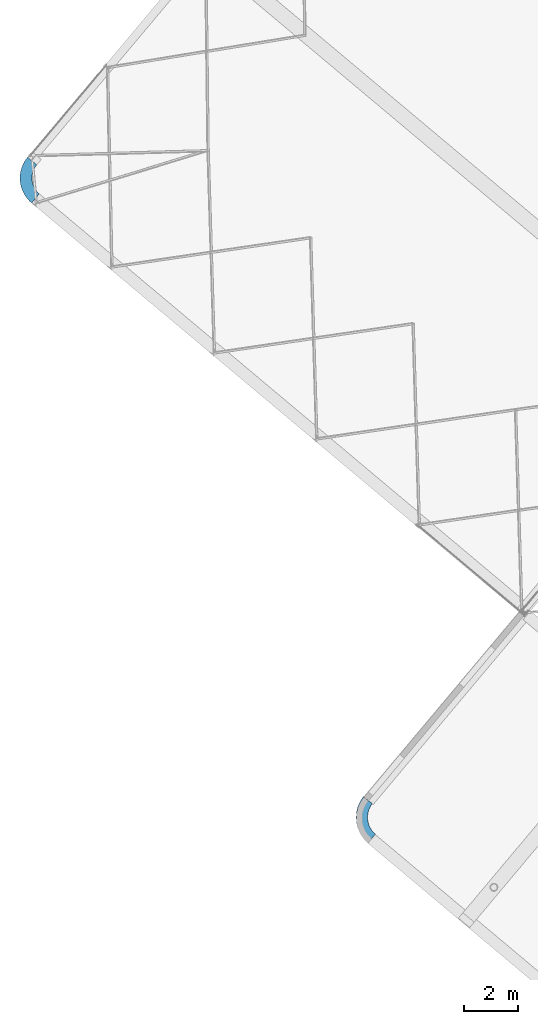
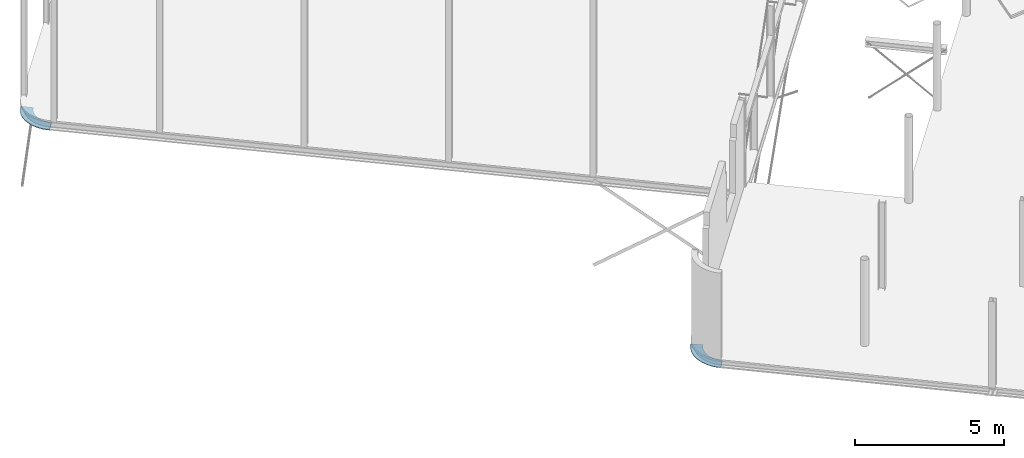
# One storey, part 23 of 25: 2 beams.
"""IFC2X3 building model written with IfcOpenShell, lengths in millimetres."""

from ifc_helpers import new_model, entity, si_unit, converted_unit, derived_unit, direction, frame, origin, place, context, subcontext, project, spatial, faceted_brep, material, type_object, element, save


model = new_model("IFC2X3")

# Units and contexts
model_context = context("Model", 3, precision=0.01, world=origin(), true_north=direction((6.123031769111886e-17, 1.0)))
body_context = subcontext(model_context, "Body", "Model", "MODEL_VIEW")
ifc_project = project(units=[si_unit("LENGTHUNIT", "METRE", prefix="MILLI"), si_unit("AREAUNIT", "SQUARE_METRE"), si_unit("VOLUMEUNIT", "CUBIC_METRE"), derived_unit("MASSDENSITYUNIT", [(si_unit("MASSUNIT", "GRAM", prefix="KILO"), 1), (si_unit("LENGTHUNIT", "METRE"), -3)]), si_unit("MASSUNIT", "GRAM", prefix="KILO"), converted_unit("PLANEANGLEUNIT", "DEGREE", entity("IfcPlaneAngleMeasure", 0.017453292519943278), si_unit("PLANEANGLEUNIT", "RADIAN"), dimensions=[0, 0, 0, 0, 0, 0, 0])], contexts=[model_context])

# Site, building, storey
site_placement = place(None, origin())
site = spatial("IfcSite", under=ifc_project, at=site_placement, Name="Default", CompositionType="ELEMENT")
building_placement = place(site_placement, origin())
building = spatial("IfcBuilding", under=site, at=building_placement, Name="AT constructie", CompositionType="ELEMENT")
storey_placement = place(building_placement, frame((0.0, 0.0, 3864.0)))
storey = spatial("IfcBuildingStorey", under=building, at=storey_placement, Name="01 eerste verdieping", CompositionType="ELEMENT", Elevation=3864.0)

# Beams
ifc_material = material(Name="h2_staal_S355")
beam_type_1 = type_object("IfcBeamType", Name="balk strip liggend_gen_420x15", PredefinedType="NOTDEFINED")
beam_1_placement = place(storey_placement, frame((18971.51274102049, 11769.841234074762, -385.0)))
element("IfcBeam", 1, at=beam_1_placement, inside=storey, type_object=beam_type_1, material=ifc_material, Name="NLRS_28_SF_LIB_balk strip_gen_AT:balk strip liggend_gen_420x15", ObjectType="NLRS_28_SF_LIB_balk strip_gen_AT:balk strip liggend_gen_420x15", context=body_context, shape_type="Brep", body=[
    faceted_brep([(433.1278015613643, 1.5952722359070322, 15.0), (433.1278015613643, 1.5952722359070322, 0.0), (707.1070136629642, 319.9274750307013, 0.0), (707.1070136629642, 319.9274750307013, 15.0), (596.5763581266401, 1449.1021868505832, 0.0), (266.06848992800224, 1708.2634282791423, 0.0), (266.06848992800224, 1708.2634282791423, 15.0), (596.5763581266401, 1449.1021868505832, 15.0), (541.7054105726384, 1369.977054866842, 0.0), (541.7054105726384, 1369.977054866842, 15.0), (496.473128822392, 1284.9732426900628, 15.0), (496.473128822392, 1284.9732426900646, 0.0), (437.2708542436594, 1102.0687388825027, 15.0), (424.11475321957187, 1006.6825532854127, 15.0), (424.11475321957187, 1006.6825532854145, 0.0), (437.2708542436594, 1102.0687388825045, 0.0), (461.5013501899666, 1195.2593524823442, 0.0), (461.5013501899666, 1195.2593524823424, 15.0), (422.21391251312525, 910.4121310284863, 0.0), (422.21391251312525, 910.4121310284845, 15.0), (431.5944642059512, 814.5809636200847, 15.0), (431.5944642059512, 814.5809636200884, 0.0), (452.1274478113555, 720.5065038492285, 0.0), (452.1274478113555, 720.5065038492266, 15.0), (483.53058317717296, 629.4820539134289, 15.0), (483.53058317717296, 629.4820539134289, 0.0), (577.0769288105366, 461.52953667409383, 15.0), (637.9340972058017, 386.9104208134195, 15.0), (637.9340972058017, 386.9104208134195, 0.0), (577.0769288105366, 461.52953667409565, 0.0), (525.3721511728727, 542.758985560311, 0.0), (525.3721511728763, 542.7589855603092, 15.0), (231.83774507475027, 1660.0432413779, 15.0), (197.60700022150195, 1611.8230544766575, 15.0), (168.12106614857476, 1560.5638113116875, 15.0), (138.63513207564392, 1509.3045681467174, 15.0), (114.16171547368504, 1455.471658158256, 15.0), (89.68829887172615, 1401.6387481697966, 15.0), (70.44959712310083, 1345.720927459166, 15.0), (51.21089537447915, 1289.8031067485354, 15.0), (37.38157919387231, 1232.3080605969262, 15.0), (23.552263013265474, 1174.813014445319, 15.0), (15.25789058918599, 1116.2627479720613, 15.0), (6.963518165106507, 1057.7124814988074, 15.0), (4.279395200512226, 998.6385803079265, 15.0), (1.595272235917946, 939.5646791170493, 15.0), (4.5457682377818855, 880.5034829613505, 15.0), (7.496264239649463, 821.4422868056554, 15.0), (16.054591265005, 762.9300200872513, 15.0), (24.61291829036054, 704.4177533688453, 15.0), (38.70137415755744, 646.9856566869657, 15.0), (52.78983002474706, 589.5535600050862, 15.0), (72.28050378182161, 533.723066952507, 15.0), (91.77117753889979, 477.8925738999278, 15.0), (116.48711078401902, 424.17057689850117, 15.0), (141.2030440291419, 370.4485798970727, 15.0), (170.91983753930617, 319.3228280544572, 15.0), (200.63663104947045, 268.19707621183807, 15.0), (235.08448213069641, 220.13174698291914, 15.0), (269.5323332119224, 172.0664177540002, 15.0), (308.39848527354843, 127.49790261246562, 15.0), (347.2646373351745, 82.92938747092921, 15.0), (377.3306372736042, 54.44928746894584, 15.0), (138.63513207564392, 1509.304568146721, 0.0), (114.16171547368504, 1455.4716581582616, 0.0), (89.68829887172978, 1401.6387481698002, 0.0), (7.496264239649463, 821.4422868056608, 0.0), (16.054591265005, 762.9300200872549, 0.0), (24.61291829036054, 704.4177533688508, 0.0), (197.6070002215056, 1611.823054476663, 0.0), (168.12106614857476, 1560.563811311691, 0.0), (51.21089537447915, 1289.803106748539, 0.0), (70.44959712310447, 1345.7209274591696, 0.0), (1.595272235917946, 939.564679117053, 0.0), (6.963518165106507, 1057.712481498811, 0.0), (4.279395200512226, 998.6385803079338, 0.0), (141.20304402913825, 370.44857989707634, 0.0), (170.91983753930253, 319.3228280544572, 0.0), (200.6366310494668, 268.1970762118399, 0.0), (23.552263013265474, 1174.8130144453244, 0.0), (15.25789058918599, 1116.2627479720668, 0.0), (347.26463733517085, 82.92938747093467, 0.0), (390.1962194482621, 42.26232985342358, 0.0), (37.38157919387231, 1232.3080605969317, 0.0), (4.5457682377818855, 880.503482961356, 0.0), (231.83774507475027, 1660.0432413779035, 0.0), (91.77117753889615, 477.89257389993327, 0.0), (52.78983002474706, 589.5535600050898, 0.0), (72.28050378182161, 533.7230669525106, 0.0), (269.53233321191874, 172.06641775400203, 0.0), (308.39848527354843, 127.49790261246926, 0.0), (38.7013741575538, 646.9856566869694, 0.0), (235.08448213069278, 220.13174698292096, 0.0), (116.48711078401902, 424.1705768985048, 0.0)], [[[0, 1, 2, 3]], [[4, 5, 6, 7]], [[8, 4, 7, 9]], [[8, 9, 10, 11]], [[12, 13, 14, 15]], [[15, 16, 17, 12]], [[16, 11, 10, 17]], [[18, 14, 13, 19]], [[19, 20, 21, 18]], [[22, 21, 20, 23]], [[22, 23, 24, 25]], [[26, 27, 28, 29]], [[29, 30, 31, 26]], [[30, 25, 24, 31]], [[2, 28, 27, 3]], [[20, 19, 13, 12, 17, 10, 9, 7, 6, 32, 33, 34, 35, 36, 37, 38, 39, 40, 41, 42, 43, 44, 45, 46, 47, 48, 49, 50, 51, 52, 53, 54, 55, 56, 57, 58, 59, 60, 61, 62, 0, 3, 27, 26, 31, 24, 23]], [[35, 63, 64, 65, 37, 36]], [[47, 66, 67, 68, 49, 48]], [[63, 35, 34, 33, 69, 70]], [[71, 39, 38, 37, 65, 72]], [[73, 45, 44, 43, 74, 75]], [[55, 76, 77, 78, 57, 56]], [[74, 43, 42, 41, 79, 80]], [[62, 61, 81, 82, 1, 0]], [[79, 41, 40, 39, 71, 83]], [[66, 47, 46, 45, 73, 84]], [[69, 33, 32, 6, 5, 85]], [[86, 53, 52, 51, 87, 88]], [[59, 89, 90, 81, 61, 60]], [[87, 51, 50, 49, 68, 91]], [[57, 78, 92, 89, 59, 58]], [[76, 55, 54, 53, 86, 93]], [[21, 22, 25, 30, 29, 28, 2, 1, 82, 81, 90, 89, 92, 78, 77, 76, 93, 86, 88, 87, 91, 68, 67, 66, 84, 73, 75, 74, 80, 79, 83, 71, 72, 65, 64, 63, 70, 69, 85, 5, 4, 8, 11, 16, 15, 14, 18]]]),
])
beam_type_2 = type_object("IfcBeamType", Name="balk strip liggend_gen_440x20", PredefinedType="NOTDEFINED")
beam_2_placement = place(storey_placement, frame((6581.143652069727, 35352.541456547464, -611.0)))
element("IfcBeam", 2, at=beam_2_placement, inside=storey, type_object=beam_type_2, material=ifc_material, Name="NLRS_28_SF_LIB_balk strip_gen_AT:balk strip liggend_gen_440x20", ObjectType="NLRS_28_SF_LIB_balk strip_gen_AT:balk strip liggend_gen_440x20", context=body_context, shape_type="Brep", body=[
    faceted_brep([(430.17874661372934, 1.5952722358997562, 20.0), (430.17874661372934, 1.5952722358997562, 0.0), (713.0052948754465, 338.6548272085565, 0.0), (713.0052948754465, 338.6548272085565, 20.0), (619.3301014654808, 1409.3671873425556, 0.0), (282.27054649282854, 1692.193735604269, 0.0), (282.27054649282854, 1692.193735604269, 20.0), (619.3301014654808, 1409.3671873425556, 20.0), (564.6905413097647, 1335.6296317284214, 0.0), (564.6905413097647, 1335.6296317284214, 20.0), (519.3374452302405, 1255.8436347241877, 20.0), (519.3374452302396, 1255.8436347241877, 0.0), (458.99098483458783, 1082.8513885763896, 20.0), (444.87760779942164, 992.1677559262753, 20.0), (444.87760779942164, 992.1677559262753, 0.0), (458.9909848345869, 1082.8513885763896, 0.0), (483.9321634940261, 1171.1726558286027, 0.0), (483.9321634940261, 1171.1726558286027, 20.0), (441.7978372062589, 900.4441294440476, 0.0), (441.7978372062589, 900.4441294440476, 20.0), (449.7965830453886, 809.0180461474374, 20.0), (449.7965830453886, 809.0180461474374, 0.0), (468.75720559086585, 719.2227042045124, 0.0), (468.75720559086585, 719.2227042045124, 20.0), (498.4032162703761, 632.3675219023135, 20.0), (498.403216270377, 632.3675219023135, 0.0), (587.872666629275, 472.4824695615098, 20.0), (646.3914402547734, 401.7840836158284, 20.0), (646.3914402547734, 401.7840836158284, 0.0), (587.872666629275, 472.4824695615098, 0.0), (538.3023094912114, 549.719043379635, 0.0), (538.3023094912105, 549.7190433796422, 20.0), (22.097888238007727, 699.5923405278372, 20.0), (49.46405297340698, 585.05378714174, 20.0), (87.92518360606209, 473.7491214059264, 20.0), (137.1108784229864, 366.75026809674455, 20.0), (196.54745229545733, 265.0876846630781, 20.0), (265.66249852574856, 169.7404373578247, 20.0), (343.7904014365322, 81.62677229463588, 20.0), (211.09195853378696, 1598.3769151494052, 20.0), (149.45177138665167, 1498.0351266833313, 20.0), (97.9436137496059, 1392.134716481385, 20.0), (57.06353733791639, 1281.6955633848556, 20.0), (27.205239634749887, 1167.7812568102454, 20.0), (8.656272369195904, 1051.4888538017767, 20.0), (1.595272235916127, 933.938313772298, 20.0), (6.09024052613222, 816.2617126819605, 20.0), (149.45177138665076, 1498.0351266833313, 0.0), (97.94361374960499, 1392.1347164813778, 0.0), (211.09195853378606, 1598.3769151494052, 0.0), (57.06353733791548, 1281.6955633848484, 0.0), (8.656272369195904, 1051.4888538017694, 0.0), (1.595272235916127, 933.9383137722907, 0.0), (27.205239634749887, 1167.7812568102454, 0.0), (6.09024052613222, 816.2617126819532, 0.0), (49.46405297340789, 585.05378714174, 0.0), (87.925183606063, 473.7491214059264, 0.0), (22.097888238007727, 699.59234052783, 0.0), (137.1108784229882, 366.7502680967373, 0.0), (265.6624985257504, 169.7404373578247, 0.0), (343.7904014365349, 81.62677229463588, 0.0), (196.54745229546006, 265.0876846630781, 0.0)], [[[0, 1, 2, 3]], [[4, 5, 6, 7]], [[8, 4, 7, 9]], [[8, 9, 10, 11]], [[12, 13, 14, 15]], [[15, 16, 17, 12]], [[16, 11, 10, 17]], [[18, 14, 13, 19]], [[19, 20, 21, 18]], [[22, 21, 20, 23]], [[22, 23, 24, 25]], [[26, 27, 28, 29]], [[29, 30, 31, 26]], [[30, 25, 24, 31]], [[2, 28, 27, 3]], [[32, 33, 34, 35, 36, 37, 38, 0, 3, 27, 26, 31, 24, 23, 20, 19, 13, 12, 17, 10, 9, 7, 6, 39, 40, 41, 42, 43, 44, 45, 46]], [[40, 47, 48, 41]], [[39, 49, 47, 40]], [[41, 48, 50, 42]], [[51, 52, 45, 44]], [[43, 53, 51, 44]], [[42, 50, 53, 43]], [[45, 52, 54, 46]], [[5, 49, 39, 6]], [[33, 55, 56, 34]], [[32, 57, 55, 33]], [[34, 56, 58, 35]], [[59, 60, 38, 37]], [[36, 61, 59, 37]], [[35, 58, 61, 36]], [[38, 60, 1, 0]], [[46, 54, 57, 32]], [[54, 52, 51, 53, 50, 48, 47, 49, 5, 4, 8, 11, 16, 15, 14, 18, 21, 22, 25, 30, 29, 28, 2, 1, 60, 59, 61, 58, 56, 55, 57]]]),
])

save(model, "model.ifc")
